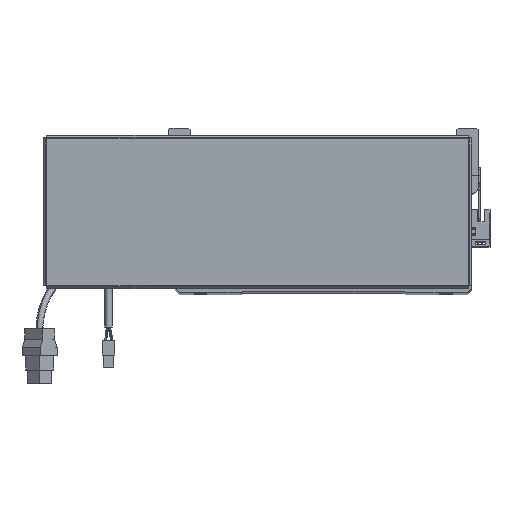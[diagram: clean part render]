
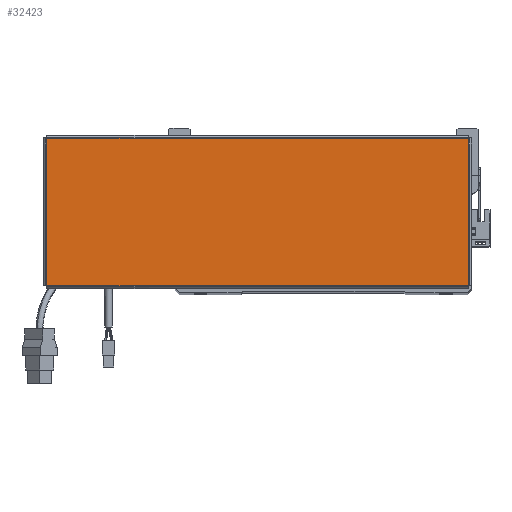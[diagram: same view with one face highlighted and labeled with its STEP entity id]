
A CAD part, top view. The second image highlights one B-rep face of the part: STEP entity #32423.
In plain terms, the highlighted planar face has unit normal (0, 0, 1).
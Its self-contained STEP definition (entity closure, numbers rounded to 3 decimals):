
#11041 = ORIENTED_EDGE ( 'NONE', *, *, #25119, .T. ) ;
#11924 = VERTEX_POINT ( 'NONE', #13929 ) ;
#11927 = VECTOR ( 'NONE', #42292, 1000. ) ;
#11961 = EDGE_CURVE ( 'NONE', #26338, #62722, #60390, .T. ) ;
#13929 = CARTESIAN_POINT ( 'NONE',  ( 156.513, 54.763, 0. ) ) ;
#14218 = CARTESIAN_POINT ( 'NONE',  ( -156.543, -54.763, 0. ) ) ;
#16911 = VERTEX_POINT ( 'NONE', #64016 ) ;
#19952 = DIRECTION ( 'NONE',  ( 1., 0., 0. ) ) ;
#23706 = EDGE_CURVE ( 'NONE', #62722, #16911, #38758, .T. ) ;
#24594 = DIRECTION ( 'NONE',  ( 1., 0., 0. ) ) ;
#24607 = CARTESIAN_POINT ( 'NONE',  ( 156.513, -54.793, 0. ) ) ;
#25119 = EDGE_CURVE ( 'NONE', #16911, #11924, #66265, .T. ) ;
#25450 = CARTESIAN_POINT ( 'NONE',  ( 0., 0., 0. ) ) ;
#26338 = VERTEX_POINT ( 'NONE', #42642 ) ;
#27269 = ORIENTED_EDGE ( 'NONE', *, *, #23706, .T. ) ;
#30696 = CARTESIAN_POINT ( 'NONE',  ( -156.513, 54.793, 0. ) ) ;
#31041 = VECTOR ( 'NONE', #67102, 1000. ) ;
#32423 = ADVANCED_FACE ( 'NONE', ( #51375 ), #56687, .T. ) ;
#33738 = EDGE_CURVE ( 'NONE', #11924, #26338, #34083, .T. ) ;
#34083 = LINE ( 'NONE', #52566, #11927 ) ;
#34591 = EDGE_LOOP ( 'NONE', ( #27269, #11041, #50376, #67621 ) ) ;
#36515 = CARTESIAN_POINT ( 'NONE',  ( -156.513, -54.763, 0. ) ) ;
#38758 = LINE ( 'NONE', #14218, #39543 ) ;
#39543 = VECTOR ( 'NONE', #24594, 1000. ) ;
#42292 = DIRECTION ( 'NONE',  ( -1., 0., 0. ) ) ;
#42642 = CARTESIAN_POINT ( 'NONE',  ( -156.513, 54.763, 0. ) ) ;
#49333 = AXIS2_PLACEMENT_3D ( 'NONE', #25450, #51230, #19952 ) ;
#50376 = ORIENTED_EDGE ( 'NONE', *, *, #33738, .T. ) ;
#51230 = DIRECTION ( 'NONE',  ( 0., 0., 1. ) ) ;
#51375 = FACE_OUTER_BOUND ( 'NONE', #34591, .T. ) ;
#51624 = VECTOR ( 'NONE', #61089, 1000. ) ;
#52566 = CARTESIAN_POINT ( 'NONE',  ( 156.543, 54.763, 0. ) ) ;
#56687 = PLANE ( 'NONE',  #49333 ) ;
#60390 = LINE ( 'NONE', #30696, #31041 ) ;
#61089 = DIRECTION ( 'NONE',  ( 0., 1., 0. ) ) ;
#62722 = VERTEX_POINT ( 'NONE', #36515 ) ;
#64016 = CARTESIAN_POINT ( 'NONE',  ( 156.513, -54.763, 0. ) ) ;
#66265 = LINE ( 'NONE', #24607, #51624 ) ;
#67102 = DIRECTION ( 'NONE',  ( 0., -1., 0. ) ) ;
#67621 = ORIENTED_EDGE ( 'NONE', *, *, #11961, .T. ) ;
